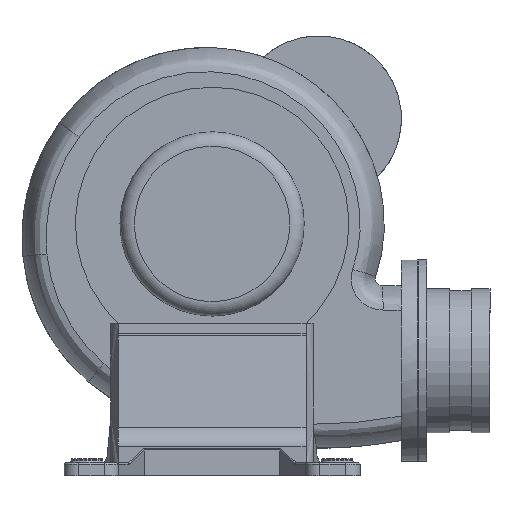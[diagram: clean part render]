
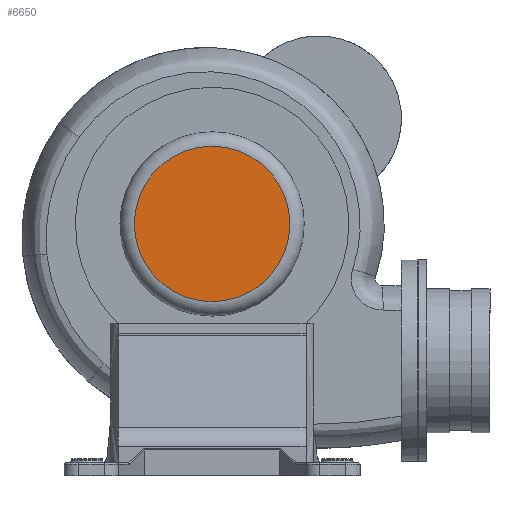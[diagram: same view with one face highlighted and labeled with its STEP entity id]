
A CAD part, left-side view. The second image highlights one B-rep face of the part: STEP entity #6650.
In plain terms, the highlighted planar face has unit normal (-1, 0, 0).
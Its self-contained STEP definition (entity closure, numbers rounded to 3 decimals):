
#178=CIRCLE('',#7175,54.);
#940=ORIENTED_EDGE('',*,*,#2875,.T.);
#2875=EDGE_CURVE('',#3838,#3838,#178,.T.);
#3838=VERTEX_POINT('',#11329);
#5553=EDGE_LOOP('',(#940));
#5998=FACE_BOUND('',#5553,.T.);
#6380=PLANE('',#7174);
#6650=ADVANCED_FACE('',(#5998),#6380,.T.);
#7174=AXIS2_PLACEMENT_3D('',#11327,#8180,#8181);
#7175=AXIS2_PLACEMENT_3D('',#11328,#8182,#8183);
#8180=DIRECTION('',(-1.,0.,0.));
#8181=DIRECTION('',(0.,0.,1.));
#8182=DIRECTION('',(-1.,0.,0.));
#8183=DIRECTION('',(0.,0.,1.));
#11327=CARTESIAN_POINT('',(-232.,0.,0.));
#11328=CARTESIAN_POINT('',(-232.,0.,0.));
#11329=CARTESIAN_POINT('',(-232.,0.,54.));
